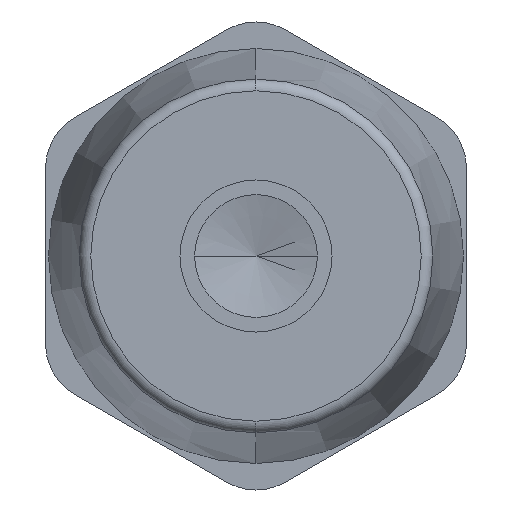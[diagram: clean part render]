
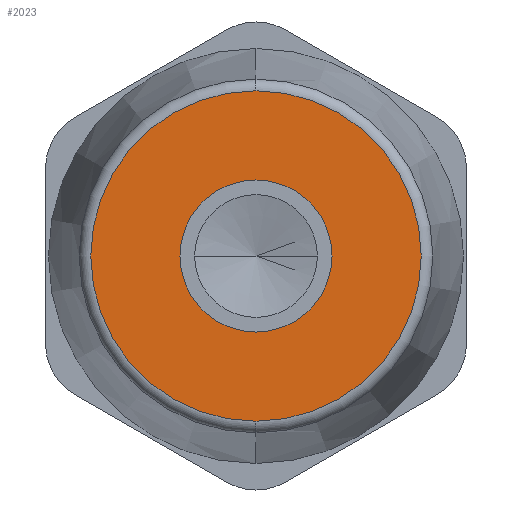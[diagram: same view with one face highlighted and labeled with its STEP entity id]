
A CAD part, front view. The second image highlights one B-rep face of the part: STEP entity #2023.
In plain terms, the highlighted planar face has unit normal (0, -1, 0).
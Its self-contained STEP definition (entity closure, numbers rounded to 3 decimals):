
#87 = CARTESIAN_POINT ( 'NONE',  ( 6.5, 0., 0. ) ) ;
#90 = ORIENTED_EDGE ( 'NONE', *, *, #273, .T. ) ;
#128 = CARTESIAN_POINT ( 'NONE',  ( 0., 0., 0. ) ) ;
#224 = AXIS2_PLACEMENT_3D ( 'NONE', #720, #2388, #1057 ) ;
#273 = EDGE_CURVE ( 'NONE', #490, #858, #1197, .T. ) ;
#446 = DIRECTION ( 'NONE',  ( -1., 0., 0. ) ) ;
#490 = VERTEX_POINT ( 'NONE', #1446 ) ;
#501 = AXIS2_PLACEMENT_3D ( 'NONE', #779, #587, #577 ) ;
#577 = DIRECTION ( 'NONE',  ( 0., 0., 1. ) ) ;
#587 = DIRECTION ( 'NONE',  ( 0., 1., 0. ) ) ;
#620 = ORIENTED_EDGE ( 'NONE', *, *, #1721, .T. ) ;
#657 = EDGE_LOOP ( 'NONE', ( #620, #1427 ) ) ;
#677 = AXIS2_PLACEMENT_3D ( 'NONE', #862, #1792, #834 ) ;
#694 = EDGE_LOOP ( 'NONE', ( #90, #2405 ) ) ;
#720 = CARTESIAN_POINT ( 'NONE',  ( 0., 0., 0. ) ) ;
#754 = CIRCLE ( 'NONE', #677, 6.5 ) ;
#779 = CARTESIAN_POINT ( 'NONE',  ( 18., 0., -10.392 ) ) ;
#808 = CARTESIAN_POINT ( 'NONE',  ( -6.5, 0., 0. ) ) ;
#834 = DIRECTION ( 'NONE',  ( -1., 0., 0. ) ) ;
#858 = VERTEX_POINT ( 'NONE', #2410 ) ;
#862 = CARTESIAN_POINT ( 'NONE',  ( 0., 0., 0. ) ) ;
#946 = FACE_OUTER_BOUND ( 'NONE', #694, .T. ) ;
#1057 = DIRECTION ( 'NONE',  ( 0., 0., 1. ) ) ;
#1187 = EDGE_CURVE ( 'NONE', #1765, #1598, #2289, .T. ) ;
#1189 = CARTESIAN_POINT ( 'NONE',  ( 0., 0., 0. ) ) ;
#1197 = CIRCLE ( 'NONE', #1506, 14.131 ) ;
#1338 = DIRECTION ( 'NONE',  ( 0., 0., 1. ) ) ;
#1427 = ORIENTED_EDGE ( 'NONE', *, *, #1187, .T. ) ;
#1446 = CARTESIAN_POINT ( 'NONE',  ( 0., 0., 14.131 ) ) ;
#1506 = AXIS2_PLACEMENT_3D ( 'NONE', #1189, #1936, #1338 ) ;
#1598 = VERTEX_POINT ( 'NONE', #808 ) ;
#1721 = EDGE_CURVE ( 'NONE', #1598, #1765, #754, .T. ) ;
#1765 = VERTEX_POINT ( 'NONE', #87 ) ;
#1777 = DIRECTION ( 'NONE',  ( 0., 1., 0. ) ) ;
#1792 = DIRECTION ( 'NONE',  ( 0., 1., 0. ) ) ;
#1894 = AXIS2_PLACEMENT_3D ( 'NONE', #128, #1777, #446 ) ;
#1923 = EDGE_CURVE ( 'NONE', #858, #490, #2292, .T. ) ;
#1936 = DIRECTION ( 'NONE',  ( 0., -1., 0. ) ) ;
#2023 = ADVANCED_FACE ( 'NONE', ( #2083, #946 ), #2074, .F. ) ;
#2074 = PLANE ( 'NONE',  #501 ) ;
#2083 = FACE_BOUND ( 'NONE', #657, .T. ) ;
#2289 = CIRCLE ( 'NONE', #1894, 6.5 ) ;
#2292 = CIRCLE ( 'NONE', #224, 14.131 ) ;
#2388 = DIRECTION ( 'NONE',  ( 0., -1., 0. ) ) ;
#2405 = ORIENTED_EDGE ( 'NONE', *, *, #1923, .T. ) ;
#2410 = CARTESIAN_POINT ( 'NONE',  ( 0., 0., -14.131 ) ) ;
